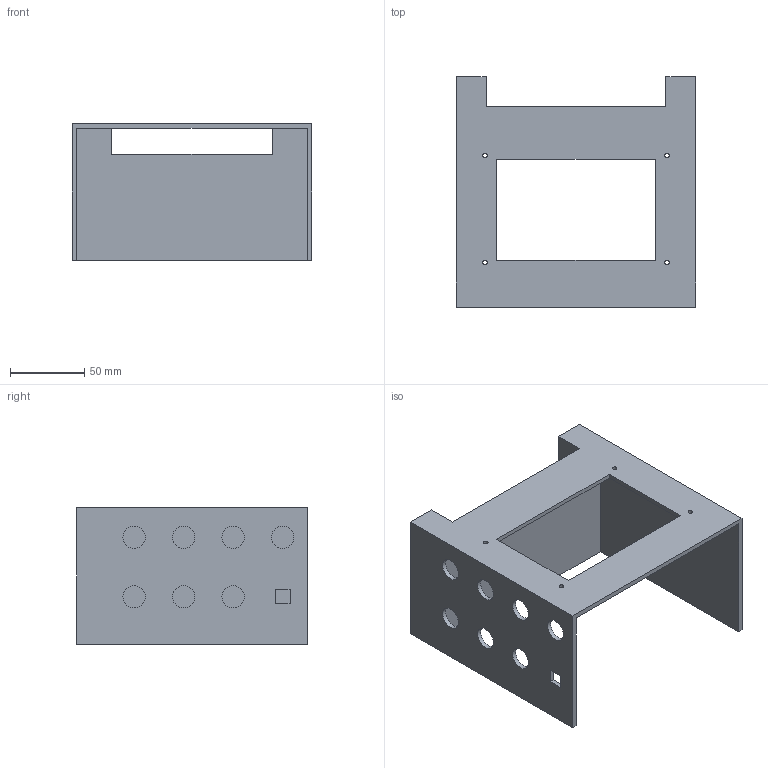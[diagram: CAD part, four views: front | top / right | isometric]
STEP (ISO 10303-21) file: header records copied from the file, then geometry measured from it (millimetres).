
FILE_DESCRIPTION(('FreeCAD Model'),'2;1');
FILE_NAME('/home/mike/Documents/3D/FreeCAD/CNC/STEP/Case.step', '2017-05-30T22:13:59',('Author'),(''), 'Open CASCADE STEP processor 6.7','FreeCAD','Unknown');
FILE_SCHEMA(('AUTOMOTIVE_DESIGN_CC2 { 1 2 10303 214 -1 1 5 4 }'));
Length unit declared in the file: millimetre
Products named in the file (1): Case
Bounding box: 161 x 155 x 92 mm (x, y, z)
Volume: 220539.2 mm3; surface area: 112363.1 mm2
Topology: 1 solids, 1 shells, 38 faces, 109 edges, 72 vertices
Faces by surface type: plane 27, cylinder 11
Full cylindrical faces by diameter (mm): 3 x4, 15 x7
Entity records: 2766 total; most frequent: CARTESIAN_POINT 504, DIRECTION 416, LINE 283, VECTOR 283, ORIENTED_EDGE 218, PCURVE 218, DEFINITIONAL_REPRESENTATION 218, EDGE_CURVE 109
